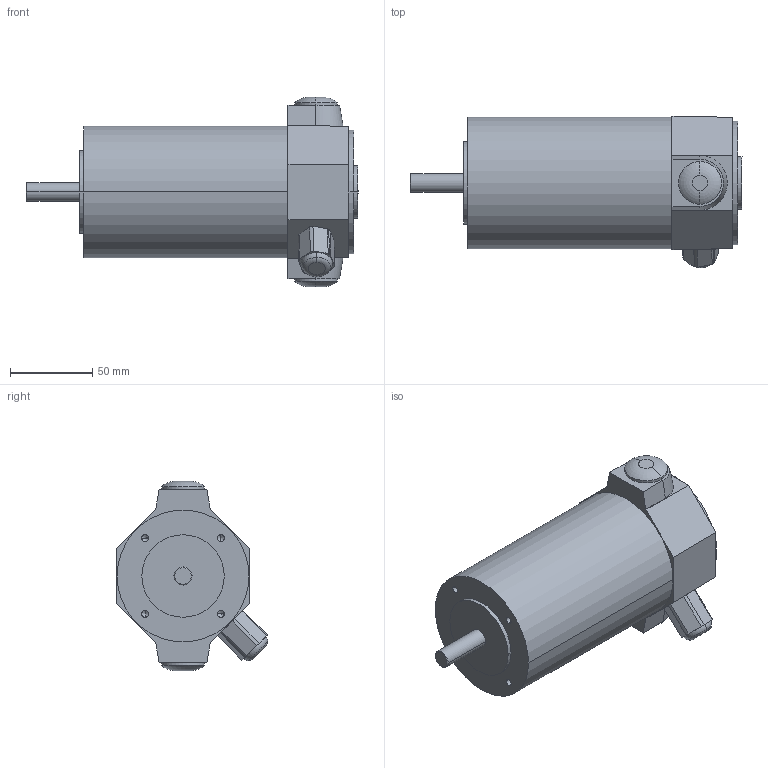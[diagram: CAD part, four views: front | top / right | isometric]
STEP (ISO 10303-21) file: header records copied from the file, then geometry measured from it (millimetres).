
FILE_DESCRIPTION(('OneSpaceDesigner STEP Export'),'2;1');
FILE_NAME('EP13_B14.stp','2008-07-07T15:37:13',(''),(''),'OneSpace Designer STEP processor (Jan. 2003) for AP214(CD)(Solid Model)','OneSpace Designer 12.01D 09-Jul-2004 (C) CoCreate Software GmbH','');
FILE_SCHEMA(('AUTOMOTIVE_DESIGN_CC2 {1 2 10303 214 -1 1 5 1}'));
Length unit declared in the file: millimetre
Products named in the file (2): EP13_B14
Assembly tree (1 placements, depth 2):
  EP13_B14
    EP13_B14
Bounding box: 201.5 x 91.89 x 115 mm (x, y, z)
Volume: 878152.6 mm3; surface area: 59293.3 mm2
Topology: 1 solids, 1 shells, 93 faces, 218 edges, 136 vertices
Faces by surface type: cylinder 38, plane 35, cone 10, torus 8, bspline 2
Entity records: 4465 total; most frequent: CARTESIAN_POINT 2461, ORIENTED_EDGE 420, DIRECTION 348, EDGE_CURVE 210, VERTEX_POINT 136, AXIS2_PLACEMENT_3D 122, EDGE_LOOP 110, VECTOR 104
